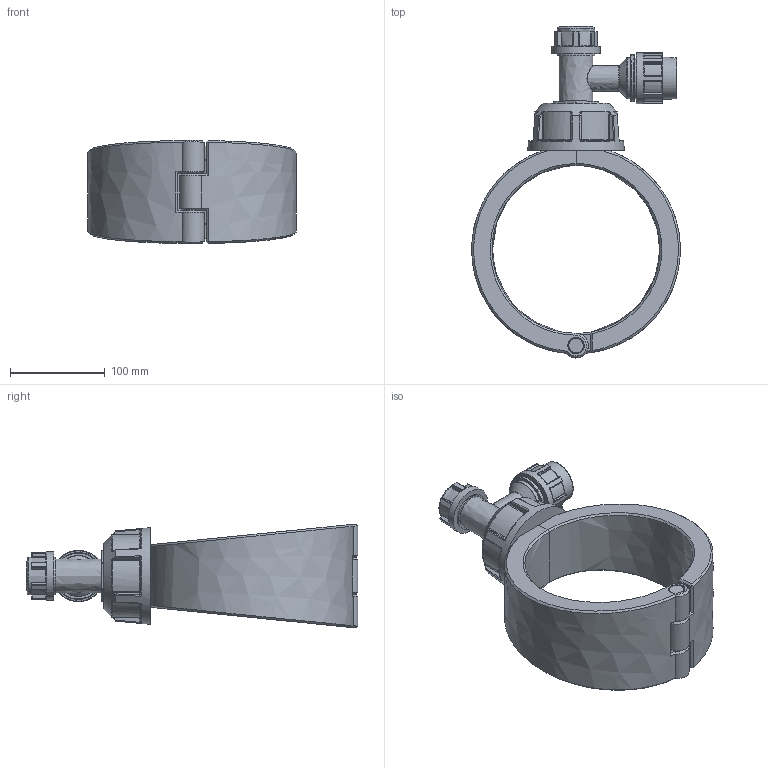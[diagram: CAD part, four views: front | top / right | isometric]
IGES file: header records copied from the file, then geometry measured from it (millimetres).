
Global section: file name: 1631061220250A; native system: Autodesk Inventor 2019; preprocessor: unknown; author: comp2; date: 20220203.115902; units: millimetre
Bounding box: 219.96 x 349.99 x 109.6 mm (x, y, z)
Volume: 1661402.3 mm3; surface area: 208608.1 mm2
Topology: 4 solids, 4 shells, 519 faces, 1253 edges, 754 vertices
Faces by surface type: bspline 519
